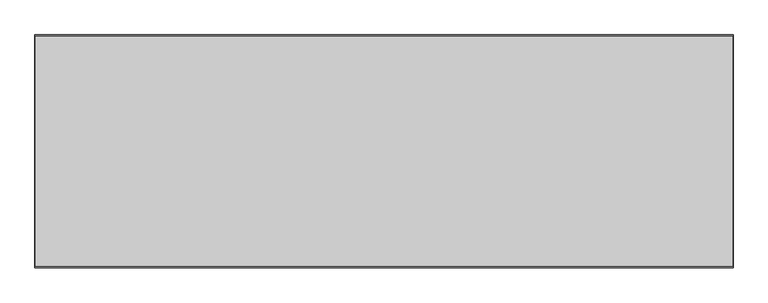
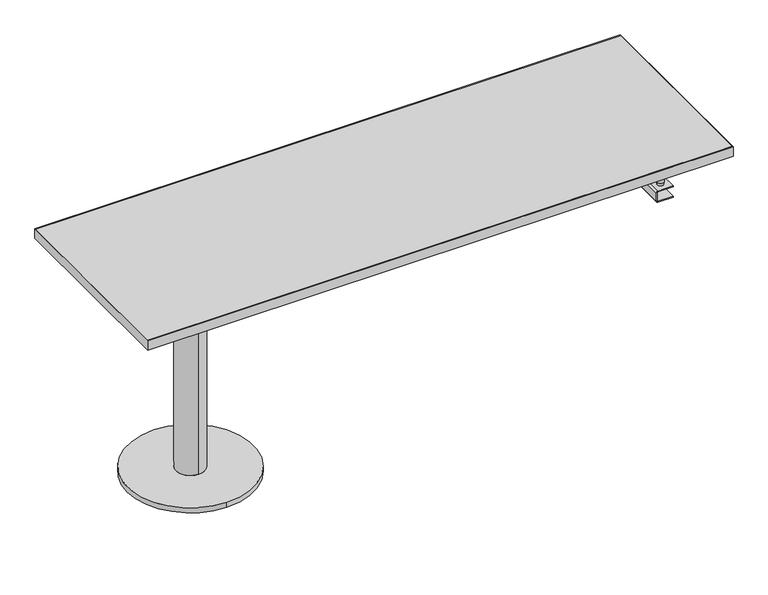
"""IFC4 building model written with IfcOpenShell, lengths in millimetres: furniture geometry, Steelcase Coalesse - Topo - Desktop - Freestanding Straight Ancillary : 72W x 24D - Left - Flat Edge."""

from ifc_helpers import new_model, si_unit, frame, origin, place, context, project, spatial, polyline, circle_curve, outline, extrude, source, transform, mapped, element, save
from ifc_brep_helpers import plane_surface, cylinder_surface, revolved_surface, advanced_brep


def furniture_5c7a1199(model_context):
    return source(origin(), model_context, "Body", "SolidModel", [
        advanced_brep(
        [(309.626, -501.6500363, 16.8148), (309.626, -107.9500363, 16.8148), (309.626, -260.3500363, 16.8148), (309.626, -349.2500363, 16.8148), (309.626, -501.6500363, 0.0), (309.626, -107.9500363, 0.0), (309.626, -349.2500363, 635.0), (309.626, -260.3500363, 635.0), (309.626, -269.8509568, 635.0), (309.626, -339.7491159, 635.0), (309.626, -339.7491159, 688.975), (309.626, -269.8509568, 688.975), (411.2261938, -203.2000242, 692.15), (208.0258062, -203.2000242, 692.15), (208.0258062, -406.4000484, 692.15), (411.2261938, -406.4000484, 692.15), (411.2261938, -203.2000242, 688.975), (411.2261938, -406.4000484, 688.975), (208.0258062, -406.4000484, 688.975), (208.0258062, -203.2000242, 688.975)],
        [
            (0, 1, circle_curve(frame((309.626, -304.8000363, 16.8148), z_axis=(0.0, 0.0, 1.0), x_axis=(0.0, 1.0, 0.0)), 196.85)),
            (1, 0, circle_curve(frame((309.626, -304.8000363, 16.8148), z_axis=(0.0, 0.0, 1.0), x_axis=(0.0, 1.0, 0.0)), 196.85)),
            (2, 3, circle_curve(frame((309.626, -304.8000363, 16.8148), z_axis=(0.0, 0.0, -1.0), x_axis=(0.0, 1.0, 0.0)), 44.45)),
            (3, 2, circle_curve(frame((309.626, -304.8000363, 16.8148), z_axis=(0.0, 0.0, -1.0), x_axis=(0.0, 1.0, 0.0)), 44.45)),
            (4, 5, circle_curve(frame((309.626, -304.8000363, 0.0), z_axis=(0.0, 0.0, -1.0), x_axis=(0.0, 1.0, 0.0)), 196.85)),
            (5, 4, circle_curve(frame((309.626, -304.8000363, 0.0), z_axis=(0.0, 0.0, -1.0), x_axis=(0.0, 1.0, 0.0)), 196.85)),
            (0, 4),
            (5, 1),
            (6, 7, circle_curve(frame((309.626, -304.8000363, 635.0), z_axis=(0.0, 0.0, 1.0), x_axis=(0.0, 1.0, 0.0)), 44.45)),
            (7, 6, circle_curve(frame((309.626, -304.8000363, 635.0), z_axis=(0.0, 0.0, 1.0), x_axis=(0.0, 1.0, 0.0)), 44.45)),
            (8, 9, circle_curve(frame((309.626, -304.8000363, 635.0), z_axis=(0.0, 0.0, -1.0), x_axis=(0.0, 1.0, 0.0)), 34.9490796)),
            (9, 8, circle_curve(frame((309.626, -304.8000363, 635.0), z_axis=(0.0, 0.0, -1.0), x_axis=(0.0, 1.0, 0.0)), 34.9490796)),
            (6, 3),
            (2, 7),
            (10, 9),
            (8, 11),
            (11, 10, circle_curve(frame((309.626, -304.8000363, 688.975), z_axis=(0.0, 0.0, -1.0), x_axis=(0.0, 1.0, 0.0)), 34.9490796)),
            (10, 11, circle_curve(frame((309.626, -304.8000363, 688.975), z_axis=(0.0, 0.0, -1.0), x_axis=(0.0, 1.0, 0.0)), 34.9490796)),
            (12, 13),
            (13, 14),
            (14, 15),
            (15, 12),
            (16, 17),
            (17, 18),
            (18, 19),
            (19, 16),
            (12, 16),
            (19, 13),
            (18, 14),
            (17, 15),
        ],
        [
            plane_surface(frame((309.626, -107.9500363, 16.8148), z_axis=(0.0, 0.0, 1.0), x_axis=(-1.0, 0.0, 0.0))),
            plane_surface(frame((309.626, -107.9500363, 0.0), z_axis=(0.0, 0.0, -1.0), x_axis=(1.0, 0.0, 0.0))),
            cylinder_surface(frame((309.626, -304.8000363, 0.0), z_axis=(0.0, 0.0, 1.0), x_axis=(0.0, 1.0, 0.0)), 196.85),
            plane_surface(frame((309.626, -260.3500363, 635.0), z_axis=(0.0, 0.0, 1.0), x_axis=(-1.0, 0.0, 0.0))),
            cylinder_surface(frame((309.626, -304.8000363, 0.0), z_axis=(0.0, 0.0, 1.0), x_axis=(0.0, 1.0, 0.0)), 44.45),
            cylinder_surface(frame((309.626, -304.8000363, 635.0), z_axis=(0.0, 0.0, 1.0), x_axis=(0.0, 1.0, 0.0)), 34.9490796),
            plane_surface(frame((208.0258062, -203.2000242, 692.15), z_axis=(0.0, 0.0, 1.0), x_axis=(-1.0, 0.0, 0.0))),
            plane_surface(frame((208.0258062, -203.2000242, 688.975), z_axis=(0.0, 0.0, -1.0), x_axis=(1.0, 0.0, 0.0))),
            plane_surface(frame((411.2261938, -203.2000242, 692.15), z_axis=(0.0, 1.0, 0.0), x_axis=(0.0, 0.0, -1.0))),
            plane_surface(frame((208.0258062, -203.2000242, 692.15), z_axis=(-1.0, 0.0, 0.0), x_axis=(0.0, 0.0, -1.0))),
            plane_surface(frame((208.0258062, -406.4000484, 692.15), z_axis=(0.0, -1.0, 0.0), x_axis=(0.0, 0.0, -1.0))),
            plane_surface(frame((411.2261938, -406.4000484, 692.15), z_axis=(1.0, 0.0, 0.0), x_axis=(0.0, 0.0, -1.0))),
        ],
        [
            (0, [[1, 2], [3, 4]]),
            (1, [[5, 6]]),
            (2, [[-1, 7, -6, 8]]),
            (2, [[-2, -8, -5, -7]]),
            (3, [[9, 10], [11, 12]]),
            (4, [[-9, 13, -3, 14]]),
            (4, [[-10, -14, -4, -13]]),
            (5, [[15, -11, 16, 17]]),
            (5, [[-15, 18, -16, -12]]),
            (6, [[19, 20, 21, 22]]),
            (7, [[23, 24, 25, 26], [-17, -18]]),
            (8, [[-19, 27, -26, 28]]),
            (9, [[-20, -28, -25, 29]]),
            (10, [[-21, -29, -24, 30]]),
            (11, [[-22, -30, -23, -27]]),
        ],
    ),
        extrude(outline(polyline([(1827.783783, -3.1750242), (1827.783783, -606.4250484), (1.016217, -606.4250484), (1.016217, -3.1750242), (1827.783783, -3.1750242)])), frame((0.0, 0.0, 692.15), z_axis=(0.0, 0.0, 1.0), x_axis=(1.0, 0.0, 0.0)), (0.0, 0.0, 1.0), 31.75),
        extrude(outline(polyline([(1828.8, 0.0), (1828.8, -609.6), (0.0, -609.6), (0.0, 0.0), (1828.8, 0.0)]), holes=[polyline([(1827.783783, -3.1750242), (1.016217, -3.1750242), (1.016217, -606.4250484), (1827.783783, -606.4250484), (1827.783783, -3.1750242)])]), frame((0.0, 0.0, 692.15), z_axis=(0.0, 0.0, 1.0), x_axis=(1.0, 0.0, 0.0)), (0.0, 0.0, 1.0), 31.75),
        extrude(outline(polyline([(-109.2200048, 691.1168589), (-127.2794, 691.1168589), (-127.2794, 682.2694), (-171.1706, 682.2694), (-171.1706, 691.1168589), (-189.2300194, 691.1168589), (-189.2300194, 692.15), (-170.18, 692.15), (-170.18, 683.304655), (-128.27, 683.304655), (-128.27, 692.15), (-109.2200048, 692.15), (-109.2200048, 691.1168589)])), frame((57.0738, 0.0, 0.0), z_axis=(1.0, 0.0, 0.0), x_axis=(0.0, 1.0, 0.0)), (0.0, 0.0, 1.0), 1714.6523581),
        extrude(outline(polyline([(-564.8960426, 691.1168589), (-564.8960426, 692.15), (-545.8460475, 692.15), (-545.8460475, 683.304655), (-503.9360475, 683.304655), (-503.9360475, 692.15), (-484.8860281, 692.15), (-484.8860281, 691.1168589), (-502.9454475, 691.1168589), (-502.9454475, 682.2694), (-546.8366475, 682.2694), (-546.8366475, 691.1168589), (-564.8960426, 691.1168589)])), frame((57.0738, 0.0, 0.0), z_axis=(1.0, 0.0, 0.0), x_axis=(0.0, 1.0, 0.0)), (0.0, 0.0, 1.0), 1714.6523581),
        advanced_brep(
        [(1720.8500969, -267.5128138, 692.15), (1657.3499031, -267.5128138, 692.15), (1657.3499031, -331.0127895, 692.15), (1720.8500969, -331.0127895, 692.15), (1720.8500969, -267.5128138, 688.975), (1720.8500969, -331.0127895, 688.975), (1657.3499031, -331.0127895, 688.975), (1657.3499031, -267.5128138, 688.975), (1689.1, -318.3128016, 688.975), (1689.1, -280.2128016, 688.975), (1689.1, -318.3128016, 655.6248), (1689.1, -280.2128016, 655.6248), (1689.1, -310.4626736, 655.6248), (1689.1, -288.0629297, 655.6248), (1689.1, -310.4626736, 621.2586), (1689.1, -288.0629297, 621.2586), (1689.1, -314.5105403, 621.2586), (1689.1, -284.015063, 621.2586), (1689.1, -314.5105403, 615.1626), (1689.1, -284.015063, 615.1626), (1689.1, -311.9628016, 615.1626), (1689.1, -286.5628016, 615.1626), (1689.1, -311.9628016, 609.4984), (1689.1, -286.5628016, 609.4984)],
        [
            (0, 1),
            (1, 2),
            (2, 3),
            (3, 0),
            (4, 5),
            (5, 6),
            (6, 7),
            (7, 4),
            (8, 9, circle_curve(frame((1689.1, -299.2628016, 688.975), z_axis=(0.0, 0.0, 1.0), x_axis=(0.0, 1.0, 0.0)), 19.05)),
            (9, 8, circle_curve(frame((1689.1, -299.2628016, 688.975), z_axis=(0.0, 0.0, 1.0), x_axis=(0.0, 1.0, 0.0)), 19.05)),
            (0, 4),
            (7, 1),
            (6, 2),
            (5, 3),
            (10, 11, circle_curve(frame((1689.1, -299.2628016, 655.6248), z_axis=(0.0, 0.0, -1.0), x_axis=(0.0, 1.0, 0.0)), 19.05)),
            (11, 10, circle_curve(frame((1689.1, -299.2628016, 655.6248), z_axis=(0.0, 0.0, -1.0), x_axis=(0.0, 1.0, 0.0)), 19.05)),
            (12, 13, circle_curve(frame((1689.1, -299.2628016, 655.6248), z_axis=(0.0, 0.0, 1.0), x_axis=(0.0, 1.0, 0.0)), 11.1998719)),
            (13, 12, circle_curve(frame((1689.1, -299.2628016, 655.6248), z_axis=(0.0, 0.0, 1.0), x_axis=(0.0, 1.0, 0.0)), 11.1998719)),
            (11, 9),
            (8, 10),
            (12, 14),
            (14, 15, circle_curve(frame((1689.1, -299.2628016, 621.2586), z_axis=(0.0, 0.0, 1.0), x_axis=(0.0, 1.0, 0.0)), 11.1998719)),
            (15, 13),
            (15, 14, circle_curve(frame((1689.1, -299.2628016, 621.2586), z_axis=(0.0, 0.0, 1.0), x_axis=(0.0, 1.0, 0.0)), 11.1998719)),
            (16, 17, circle_curve(frame((1689.1, -299.2628016, 621.2586), z_axis=(0.0, 0.0, 1.0), x_axis=(0.0, 1.0, 0.0)), 15.2477387)),
            (17, 16, circle_curve(frame((1689.1, -299.2628016, 621.2586), z_axis=(0.0, 0.0, 1.0), x_axis=(0.0, 1.0, 0.0)), 15.2477387)),
            (18, 19, circle_curve(frame((1689.1, -299.2628016, 615.1626), z_axis=(0.0, 0.0, -1.0), x_axis=(0.0, 1.0, 0.0)), 15.2477387)),
            (19, 18, circle_curve(frame((1689.1, -299.2628016, 615.1626), z_axis=(0.0, 0.0, -1.0), x_axis=(0.0, 1.0, 0.0)), 15.2477387)),
            (20, 21, circle_curve(frame((1689.1, -299.2628016, 615.1626), z_axis=(0.0, 0.0, 1.0), x_axis=(0.0, 1.0, 0.0)), 12.7)),
            (21, 20, circle_curve(frame((1689.1, -299.2628016, 615.1626), z_axis=(0.0, 0.0, 1.0), x_axis=(0.0, 1.0, 0.0)), 12.7)),
            (16, 18),
            (19, 17),
            (22, 23, circle_curve(frame((1689.1, -299.2628016, 609.4984), z_axis=(0.0, 0.0, -1.0), x_axis=(0.0, 1.0, 0.0)), 12.7)),
            (23, 22, circle_curve(frame((1689.1, -299.2628016, 609.4984), z_axis=(0.0, 0.0, -1.0), x_axis=(0.0, 1.0, 0.0)), 12.7)),
            (23, 21),
            (20, 22),
        ],
        [
            plane_surface(frame((1657.3499031, -267.5128138, 692.15), z_axis=(0.0, 0.0, 1.0), x_axis=(-1.0, 0.0, 0.0))),
            plane_surface(frame((1657.3499031, -267.5128138, 688.975), z_axis=(0.0, 0.0, -1.0), x_axis=(1.0, 0.0, 0.0))),
            plane_surface(frame((1720.8500969, -267.5128138, 692.15), z_axis=(0.0, 1.0, 0.0), x_axis=(0.0, 0.0, -1.0))),
            plane_surface(frame((1657.3499031, -267.5128138, 692.15), z_axis=(-1.0, 0.0, 0.0), x_axis=(0.0, 0.0, -1.0))),
            plane_surface(frame((1657.3499031, -331.0127895, 692.15), z_axis=(0.0, -1.0, 0.0), x_axis=(0.0, 0.0, -1.0))),
            plane_surface(frame((1720.8500969, -331.0127895, 692.15), z_axis=(1.0, 0.0, 0.0), x_axis=(0.0, 0.0, -1.0))),
            plane_surface(frame((1689.1, -280.2128016, 655.6248), z_axis=(0.0, 0.0, -1.0), x_axis=(1.0, 0.0, 0.0))),
            cylinder_surface(frame((1689.1, -299.2628016, 655.6248), z_axis=(0.0, 0.0, 1.0), x_axis=(0.0, 1.0, 0.0)), 19.05),
            cylinder_surface(frame((1689.1, -299.2628016, 621.2586), z_axis=(0.0, 0.0, 1.0), x_axis=(0.0, 1.0, 0.0)), 11.1998719),
            plane_surface(frame((1689.1, -284.015063, 621.2586), z_axis=(0.0, 0.0, 1.0), x_axis=(-1.0, 0.0, 0.0))),
            plane_surface(frame((1689.1, -284.015063, 615.1626), z_axis=(0.0, 0.0, -1.0), x_axis=(1.0, 0.0, 0.0))),
            cylinder_surface(frame((1689.1, -299.2628016, 615.1626), z_axis=(0.0, 0.0, 1.0), x_axis=(0.0, 1.0, 0.0)), 15.2477387),
            plane_surface(frame((1689.1, -286.5628016, 609.4984), z_axis=(0.0, 0.0, -1.0), x_axis=(1.0, 0.0, 0.0))),
            cylinder_surface(frame((1689.1, -299.2628016, 609.4984), z_axis=(0.0, 0.0, 1.0), x_axis=(0.0, 1.0, 0.0)), 12.7),
        ],
        [
            (0, [[1, 2, 3, 4]]),
            (1, [[5, 6, 7, 8], [9, 10]]),
            (2, [[-1, 11, -8, 12]]),
            (3, [[-2, -12, -7, 13]]),
            (4, [[-3, -13, -6, 14]]),
            (5, [[-4, -14, -5, -11]]),
            (6, [[15, 16], [17, 18]]),
            (7, [[-16, 19, -9, 20]]),
            (7, [[-15, -20, -10, -19]]),
            (8, [[21, 22, 23, -17]]),
            (8, [[-21, -18, -23, 24]]),
            (9, [[25, 26], [-22, -24]]),
            (10, [[27, 28], [29, 30]]),
            (11, [[-25, 31, -28, 32]]),
            (11, [[-26, -32, -27, -31]]),
            (12, [[33, 34]]),
            (13, [[-34, 35, -29, 36]]),
            (13, [[-33, -36, -30, -35]]),
        ],
    ),
        advanced_brep(
        [(1628.2422055, -550.2910475, 612.0384), (1623.1622153, -550.2910475, 606.9584098), (1623.1622153, -550.2910475, 580.2884171), (1628.2422323, -550.2910475, 575.2084), (1676.5019827, -550.2910475, 575.2084), (1676.5019827, -550.2910475, 577.7484), (1628.2419827, -550.2910475, 577.7484), (1625.7021765, -550.2910475, 580.2882062), (1625.7021765, -550.2910475, 606.9584098), (1628.2421667, -550.2910475, 609.4984), (1676.5019827, -550.2910475, 609.4984), (1676.5019827, -550.2910475, 612.0384), (1628.2422055, -124.840999, 612.0384), (1676.5019827, -124.840999, 612.0384), (1676.5019827, -124.840999, 609.4984), (1628.2421667, -124.840999, 609.4984), (1625.7021765, -124.840999, 606.9584098), (1625.7021765, -124.840999, 580.2882062), (1628.2419827, -124.840999, 577.7484), (1676.5019827, -124.840999, 577.7484), (1676.5019827, -124.840999, 575.2084), (1628.2422323, -124.840999, 575.2084), (1623.1622153, -124.840999, 580.2884171), (1623.1622153, -124.840999, 606.9584098), (1676.5019827, -180.7210184, 575.2084), (1632.051789, -180.7210184, 575.2084), (1632.051789, -493.3950291, 575.2084), (1676.5019827, -493.3950291, 575.2084), (1676.5019827, -493.3950291, 577.7484), (1676.5019827, -180.7210184, 577.7484), (1632.051789, -493.3950291, 577.7484), (1632.051789, -180.7210184, 577.7484), (1676.5019827, -180.7210184, 609.4984), (1632.051789, -180.7210184, 609.4984), (1632.051789, -493.3950291, 609.4984), (1676.5019827, -493.3950291, 609.4984), (1676.5019827, -493.3950291, 612.0384), (1676.5019827, -180.7210184, 612.0384), (1632.051789, -493.3950291, 612.0384), (1632.051789, -180.7210184, 612.0384), (1660.753789, -523.9179378, 612.0384), (1641.449789, -523.9179378, 612.0384), (1660.753789, -150.1981097, 612.0384), (1641.449789, -150.1981097, 612.0384), (1682.8523703, -498.4749516, 682.2694), (1619.351789, -498.4749516, 682.2694), (1613.001789, -504.8249516, 682.2694), (1613.001789, -543.010924, 682.2694), (1620.3925794, -549.2750484, 682.2694), (1681.8115798, -549.2750484, 682.2694), (1689.201789, -542.925, 682.2694), (1689.201789, -504.9108755, 682.2694), (1682.8523703, -175.6410959, 682.2694), (1689.201789, -169.2051719, 682.2694), (1689.201789, -131.1910475, 682.2694), (1681.8115798, -124.840999, 682.2694), (1620.3925794, -124.840999, 682.2694), (1613.001789, -131.1051235, 682.2694), (1613.001789, -169.2910959, 682.2694), (1619.351789, -175.6410959, 682.2694), (1682.8523703, -498.4749516, 679.0944), (1689.201789, -504.9108755, 679.0944), (1689.201789, -542.925, 679.0944), (1681.8115798, -549.2750484, 679.0944), (1620.3925794, -549.2750484, 679.0944), (1613.001789, -543.010924, 679.0944), (1613.001789, -504.8249516, 679.0944), (1619.351789, -498.4749516, 679.0944), (1662.277789, -523.9179378, 679.0944), (1639.925789, -523.9179378, 679.0944), (1682.8523703, -175.6410959, 679.0944), (1619.351789, -175.6410959, 679.0944), (1613.001789, -169.2910959, 679.0944), (1613.001789, -131.1051235, 679.0944), (1620.3925794, -124.840999, 679.0944), (1681.8115798, -124.840999, 679.0944), (1689.201789, -131.1910475, 679.0944), (1689.201789, -169.2051719, 679.0944), (1662.277789, -150.1981097, 679.0944), (1639.925789, -150.1981097, 679.0944), (1641.449789, -523.9179378, 621.2586), (1660.753789, -523.9179378, 621.2586), (1641.449789, -150.1981097, 621.2586), (1660.753789, -150.1981097, 621.2586), (1662.277789, -523.9179378, 621.2586), (1639.925789, -523.9179378, 621.2586), (1662.277789, -150.1981097, 621.2586), (1639.925789, -150.1981097, 621.2586)],
        [
            (0, 1, circle_curve(frame((1628.2422055, -550.2910475, 606.9584098), z_axis=(0.0, -1.0, 0.0), x_axis=(1.0, 0.0, 0.0)), 5.0799902)),
            (1, 2),
            (2, 3, circle_curve(frame((1628.2422323, -550.2910475, 580.2884171), z_axis=(0.0, -1.0, 0.0), x_axis=(1.0, 0.0, 0.0)), 5.0800171)),
            (3, 4),
            (4, 5),
            (5, 6),
            (6, 7, circle_curve(frame((1628.2419827, -550.2910475, 580.2882062), z_axis=(0.0, 1.0, 0.0), x_axis=(1.0, 0.0, 0.0)), 2.5398062)),
            (7, 8),
            (8, 9, circle_curve(frame((1628.2421667, -550.2910475, 606.9584098), z_axis=(0.0, 1.0, 0.0), x_axis=(1.0, 0.0, 0.0)), 2.5399902)),
            (9, 10),
            (10, 11),
            (11, 0),
            (12, 13),
            (13, 14),
            (14, 15),
            (15, 16, circle_curve(frame((1628.2421667, -124.840999, 606.9584098), z_axis=(0.0, -1.0, 0.0), x_axis=(1.0, 0.0, 0.0)), 2.5399902)),
            (16, 17),
            (17, 18, circle_curve(frame((1628.2419827, -124.840999, 580.2882062), z_axis=(0.0, -1.0, 0.0), x_axis=(1.0, 0.0, 0.0)), 2.5398062)),
            (18, 19),
            (19, 20),
            (20, 21),
            (21, 22, circle_curve(frame((1628.2422323, -124.840999, 580.2884171), z_axis=(0.0, 1.0, 0.0), x_axis=(1.0, 0.0, 0.0)), 5.0800171)),
            (22, 23),
            (23, 12, circle_curve(frame((1628.2422055, -124.840999, 606.9584098), z_axis=(0.0, 1.0, 0.0), x_axis=(1.0, 0.0, 0.0)), 5.0799902)),
            (0, 12),
            (23, 1),
            (22, 2),
            (21, 3),
            (20, 24),
            (24, 25),
            (25, 26),
            (26, 27),
            (27, 4),
            (27, 28),
            (28, 5),
            (19, 29),
            (29, 24),
            (28, 30),
            (30, 31),
            (31, 29),
            (18, 6),
            (17, 7),
            (16, 8),
            (15, 9),
            (14, 32),
            (32, 33),
            (33, 34),
            (34, 35),
            (35, 10),
            (35, 36),
            (36, 11),
            (13, 37),
            (37, 32),
            (36, 38),
            (38, 39),
            (39, 37),
            (40, 41, circle_curve(frame((1651.101789, -523.9179378, 612.0384), z_axis=(0.0, 0.0, -1.0), x_axis=(1.0, 0.0, 0.0)), 9.652)),
            (41, 40, circle_curve(frame((1651.101789, -523.9179378, 612.0384), z_axis=(0.0, 0.0, -1.0), x_axis=(1.0, 0.0, 0.0)), 9.652)),
            (42, 43, circle_curve(frame((1651.101789, -150.1981097, 612.0384), z_axis=(0.0, 0.0, -1.0), x_axis=(1.0, 0.0, 0.0)), 9.652)),
            (43, 42, circle_curve(frame((1651.101789, -150.1981097, 612.0384), z_axis=(0.0, 0.0, -1.0), x_axis=(1.0, 0.0, 0.0)), 9.652)),
            (31, 25),
            (39, 33),
            (26, 30),
            (34, 38),
            (44, 45),
            (45, 46, circle_curve(frame((1619.351789, -504.8249516, 682.2694), z_axis=(0.0, 0.0, 1.0), x_axis=(1.0, 0.0, 0.0)), 6.35)),
            (46, 47),
            (47, 48, circle_curve(frame((1619.351789, -543.010924, 682.2694), z_axis=(0.0, 0.0, 1.0), x_axis=(1.0, 0.0, 0.0)), 6.35)),
            (48, 49),
            (49, 50, circle_curve(frame((1682.8523703, -543.010924, 682.2694), z_axis=(0.0, 0.0, 1.0), x_axis=(1.0, 0.0, 0.0)), 6.35)),
            (50, 51),
            (51, 44, circle_curve(frame((1682.8523703, -504.8249516, 682.2694), z_axis=(0.0, 0.0, 1.0), x_axis=(1.0, 0.0, 0.0)), 6.35)),
            (52, 53, circle_curve(frame((1682.8523703, -169.2910959, 682.2694), z_axis=(0.0, 0.0, 1.0), x_axis=(1.0, 0.0, 0.0)), 6.35)),
            (53, 54),
            (54, 55, circle_curve(frame((1682.8523703, -131.1051235, 682.2694), z_axis=(0.0, 0.0, 1.0), x_axis=(1.0, 0.0, 0.0)), 6.35)),
            (55, 56),
            (56, 57, circle_curve(frame((1619.351789, -131.1051235, 682.2694), z_axis=(0.0, 0.0, 1.0), x_axis=(1.0, 0.0, 0.0)), 6.35)),
            (57, 58),
            (58, 59, circle_curve(frame((1619.351789, -169.2910959, 682.2694), z_axis=(0.0, 0.0, 1.0), x_axis=(1.0, 0.0, 0.0)), 6.35)),
            (59, 52),
            (60, 61, circle_curve(frame((1682.8523703, -504.8249516, 679.0944), z_axis=(0.0, 0.0, -1.0), x_axis=(1.0, 0.0, 0.0)), 6.35)),
            (61, 62),
            (62, 63, circle_curve(frame((1682.8523703, -543.010924, 679.0944), z_axis=(0.0, 0.0, -1.0), x_axis=(1.0, 0.0, 0.0)), 6.35)),
            (63, 64),
            (64, 65, circle_curve(frame((1619.351789, -543.010924, 679.0944), z_axis=(0.0, 0.0, -1.0), x_axis=(1.0, 0.0, 0.0)), 6.35)),
            (65, 66),
            (66, 67, circle_curve(frame((1619.351789, -504.8249516, 679.0944), z_axis=(0.0, 0.0, -1.0), x_axis=(1.0, 0.0, 0.0)), 6.35)),
            (67, 60),
            (68, 69, circle_curve(frame((1651.101789, -523.9179378, 679.0944), z_axis=(0.0, 0.0, 1.0), x_axis=(1.0, 0.0, 0.0)), 11.176)),
            (69, 68, circle_curve(frame((1651.101789, -523.9179378, 679.0944), z_axis=(0.0, 0.0, 1.0), x_axis=(1.0, 0.0, 0.0)), 11.176)),
            (70, 71),
            (71, 72, circle_curve(frame((1619.351789, -169.2910959, 679.0944), z_axis=(0.0, 0.0, -1.0), x_axis=(1.0, 0.0, 0.0)), 6.35)),
            (72, 73),
            (73, 74, circle_curve(frame((1619.351789, -131.1051235, 679.0944), z_axis=(0.0, 0.0, -1.0), x_axis=(1.0, 0.0, 0.0)), 6.35)),
            (74, 75),
            (75, 76, circle_curve(frame((1682.8523703, -131.1051235, 679.0944), z_axis=(0.0, 0.0, -1.0), x_axis=(1.0, 0.0, 0.0)), 6.35)),
            (76, 77),
            (77, 70, circle_curve(frame((1682.8523703, -169.2910959, 679.0944), z_axis=(0.0, 0.0, -1.0), x_axis=(1.0, 0.0, 0.0)), 6.35)),
            (78, 79, circle_curve(frame((1651.101789, -150.1981097, 679.0944), z_axis=(0.0, 0.0, 1.0), x_axis=(1.0, 0.0, 0.0)), 11.176)),
            (79, 78, circle_curve(frame((1651.101789, -150.1981097, 679.0944), z_axis=(0.0, 0.0, 1.0), x_axis=(1.0, 0.0, 0.0)), 11.176)),
            (44, 60),
            (67, 45),
            (66, 46),
            (65, 47),
            (64, 48),
            (63, 49),
            (62, 50),
            (61, 51),
            (52, 70),
            (77, 53),
            (76, 54),
            (75, 55),
            (74, 56),
            (73, 57),
            (72, 58),
            (71, 59),
            (80, 41),
            (40, 81),
            (81, 80, circle_curve(frame((1651.101789, -523.9179378, 621.2586), z_axis=(0.0, 0.0, -1.0), x_axis=(1.0, 0.0, 0.0)), 9.652)),
            (80, 81, circle_curve(frame((1651.101789, -523.9179378, 621.2586), z_axis=(0.0, 0.0, -1.0), x_axis=(1.0, 0.0, 0.0)), 9.652)),
            (82, 43),
            (42, 83),
            (83, 82, circle_curve(frame((1651.101789, -150.1981097, 621.2586), z_axis=(0.0, 0.0, -1.0), x_axis=(1.0, 0.0, 0.0)), 9.652)),
            (82, 83, circle_curve(frame((1651.101789, -150.1981097, 621.2586), z_axis=(0.0, 0.0, -1.0), x_axis=(1.0, 0.0, 0.0)), 9.652)),
            (84, 85, circle_curve(frame((1651.101789, -523.9179378, 621.2586), z_axis=(0.0, 0.0, -1.0), x_axis=(1.0, 0.0, 0.0)), 11.176)),
            (85, 84, circle_curve(frame((1651.101789, -523.9179378, 621.2586), z_axis=(0.0, 0.0, -1.0), x_axis=(1.0, 0.0, 0.0)), 11.176)),
            (86, 87, circle_curve(frame((1651.101789, -150.1981097, 621.2586), z_axis=(0.0, 0.0, -1.0), x_axis=(1.0, 0.0, 0.0)), 11.176)),
            (87, 86, circle_curve(frame((1651.101789, -150.1981097, 621.2586), z_axis=(0.0, 0.0, -1.0), x_axis=(1.0, 0.0, 0.0)), 11.176)),
            (85, 69),
            (68, 84),
            (87, 79),
            (78, 86),
        ],
        [
            plane_surface(frame((1633.3221957, -550.2910475, 606.9584098), z_axis=(0.0, -1.0, 0.0), x_axis=(0.0, 0.0, 1.0))),
            plane_surface(frame((1633.3221957, -124.840999, 606.9584098), z_axis=(0.0, 1.0, 0.0), x_axis=(0.0, 0.0, -1.0))),
            cylinder_surface(frame((1628.2422055, -124.840999, 606.9584098), z_axis=(0.0, -1.0, 0.0), x_axis=(1.0, 0.0, 0.0)), 5.0799902),
            plane_surface(frame((1623.1622153, -550.2910475, 606.9584098), z_axis=(-1.0, 0.0, 0.0), x_axis=(0.0, 1.0, 0.0))),
            cylinder_surface(frame((1628.2422323, -124.840999, 580.2884171), z_axis=(0.0, -1.0, 0.0), x_axis=(1.0, 0.0, 0.0)), 5.0800171),
            plane_surface(frame((1628.2422323, -550.2910475, 575.2084), z_axis=(0.0, 0.0, -1.0), x_axis=(0.0, 1.0, 0.0))),
            plane_surface(frame((1676.5019827, -550.2910475, 575.2084), z_axis=(1.0, 0.0, 0.0), x_axis=(0.0, 1.0, 0.0))),
            plane_surface(frame((1676.5019827, -550.2910475, 577.7484), z_axis=(0.0, 0.0, 1.0), x_axis=(0.0, 1.0, 0.0))),
            revolved_surface(polyline([(1630.7817889, -124.840999, 580.2882062), (1630.7817889, -550.2910475, 580.2882062)]), (1628.2419827, -124.840999, 580.2882062), (0.0, 1.0, 0.0)),
            plane_surface(frame((1625.7021765, -550.2910475, 580.2882062), z_axis=(1.0, 0.0, 0.0), x_axis=(0.0, 1.0, 0.0))),
            revolved_surface(polyline([(1630.7821569, -124.840999, 606.9584098), (1630.7821569, -550.2910475, 606.9584098)]), (1628.2421667, -124.840999, 606.9584098), (0.0, 1.0, 0.0)),
            plane_surface(frame((1628.2421667, -550.2910475, 609.4984), z_axis=(0.0, 0.0, -1.0), x_axis=(0.0, 1.0, 0.0))),
            plane_surface(frame((1676.5019827, -550.2910475, 609.4984), z_axis=(1.0, 0.0, 0.0), x_axis=(0.0, 1.0, 0.0))),
            plane_surface(frame((1676.5019827, -550.2910475, 612.0384), z_axis=(0.0, 0.0, 1.0), x_axis=(0.0, 1.0, 0.0))),
            plane_surface(frame((1632.051789, -180.7210184, 575.2084), z_axis=(0.0, -1.0, 0.0), x_axis=(0.0, 0.0, 1.0))),
            plane_surface(frame((1676.5019827, -493.3950291, 575.2084), z_axis=(0.0, 1.0, 0.0), x_axis=(0.0, 0.0, 1.0))),
            plane_surface(frame((1632.051789, -493.3950291, 575.2084), z_axis=(1.0, 0.0, 0.0), x_axis=(0.0, 0.0, 1.0))),
            plane_surface(frame((1619.351789, -498.4749516, 682.2694), z_axis=(0.0, 0.0, 1.0), x_axis=(-1.0, 0.0, 0.0))),
            plane_surface(frame((1619.351789, -498.4749516, 679.0944), z_axis=(0.0, 0.0, -1.0), x_axis=(1.0, 0.0, 0.0))),
            plane_surface(frame((1682.8523703, -498.4749516, 682.2694), z_axis=(0.0, 1.0, 0.0), x_axis=(0.0, 0.0, -1.0))),
            cylinder_surface(frame((1619.351789, -504.8249516, 679.0944), z_axis=(0.0, 0.0, 1.0), x_axis=(1.0, 0.0, 0.0)), 6.35),
            plane_surface(frame((1613.001789, -504.8249516, 682.2694), z_axis=(-1.0, 0.0, 0.0), x_axis=(0.0, 0.0, -1.0))),
            cylinder_surface(frame((1619.351789, -543.010924, 679.0944), z_axis=(0.0, 0.0, 1.0), x_axis=(1.0, 0.0, 0.0)), 6.35),
            plane_surface(frame((1620.3925794, -549.2750484, 682.2694), z_axis=(0.0, -1.0, 0.0), x_axis=(0.0, 0.0, -1.0))),
            cylinder_surface(frame((1682.8523703, -543.010924, 679.0944), z_axis=(0.0, 0.0, 1.0), x_axis=(1.0, 0.0, 0.0)), 6.35),
            plane_surface(frame((1689.201789, -542.925, 682.2694), z_axis=(1.0, 0.0, 0.0), x_axis=(0.0, 0.0, -1.0))),
            cylinder_surface(frame((1682.8523703, -504.8249516, 679.0944), z_axis=(0.0, 0.0, 1.0), x_axis=(1.0, 0.0, 0.0)), 6.35),
            cylinder_surface(frame((1682.8523703, -169.2910959, 0.0), z_axis=(0.0, 0.0, 1.0), x_axis=(1.0, 0.0, 0.0)), 6.35),
            plane_surface(frame((1689.201789, -169.2051719, 682.2694), z_axis=(1.0, 0.0, 0.0), x_axis=(0.0, 0.0, -1.0))),
            cylinder_surface(frame((1682.8523703, -131.1051235, 0.0), z_axis=(0.0, 0.0, 1.0), x_axis=(1.0, 0.0, 0.0)), 6.35),
            plane_surface(frame((1681.8115798, -124.840999, 682.2694), z_axis=(0.0, 1.0, 0.0), x_axis=(0.0, 0.0, -1.0))),
            cylinder_surface(frame((1619.351789, -131.1051235, 0.0), z_axis=(0.0, 0.0, 1.0), x_axis=(1.0, 0.0, 0.0)), 6.35),
            plane_surface(frame((1613.001789, -131.1051235, 682.2694), z_axis=(-1.0, 0.0, 0.0), x_axis=(0.0, 0.0, -1.0))),
            cylinder_surface(frame((1619.351789, -169.2910959, 0.0), z_axis=(0.0, 0.0, 1.0), x_axis=(1.0, 0.0, 0.0)), 6.35),
            plane_surface(frame((1619.351789, -175.6410959, 682.2694), z_axis=(0.0, -1.0, 0.0), x_axis=(0.0, 0.0, -1.0))),
            cylinder_surface(frame((1651.101789, -523.9179378, 612.0384), z_axis=(0.0, 0.0, 1.0), x_axis=(1.0, 0.0, 0.0)), 9.652),
            cylinder_surface(frame((1651.101789, -150.1981097, 0.0), z_axis=(0.0, 0.0, 1.0), x_axis=(1.0, 0.0, 0.0)), 9.652),
            plane_surface(frame((1662.277789, -523.9179378, 621.2586), z_axis=(0.0, 0.0, -1.0), x_axis=(0.0, -1.0, 0.0))),
            cylinder_surface(frame((1651.101789, -523.9179378, 621.2586), z_axis=(0.0, 0.0, 1.0), x_axis=(1.0, 0.0, 0.0)), 11.176),
            cylinder_surface(frame((1651.101789, -150.1981097, 0.0), z_axis=(0.0, 0.0, 1.0), x_axis=(1.0, 0.0, 0.0)), 11.176),
        ],
        [
            (0, [[1, 2, 3, 4, 5, 6, 7, 8, 9, 10, 11, 12]]),
            (1, [[13, 14, 15, 16, 17, 18, 19, 20, 21, 22, 23, 24]]),
            (2, [[-1, 25, -24, 26]]),
            (3, [[-2, -26, -23, 27]]),
            (4, [[-3, -27, -22, 28]]),
            (5, [[-4, -28, -21, 29, 30, 31, 32, 33]]),
            (6, [[-5, -33, 34, 35]]),
            (6, [[-20, 36, 37, -29]]),
            (7, [[-6, -35, 38, 39, 40, -36, -19, 41]]),
            (8, [[-7, -41, -18, 42]]),
            (9, [[-8, -42, -17, 43]]),
            (10, [[-9, -43, -16, 44]]),
            (11, [[-10, -44, -15, 45, 46, 47, 48, 49]]),
            (12, [[-11, -49, 50, 51]]),
            (12, [[-14, 52, 53, -45]]),
            (13, [[-12, -51, 54, 55, 56, -52, -13, -25], [57, 58], [59, 60]]),
            (14, [[61, -30, -37, -40]]),
            (14, [[62, -46, -53, -56]]),
            (15, [[63, -38, -34, -32]]),
            (15, [[64, -54, -50, -48]]),
            (16, [[-61, -39, -63, -31]]),
            (16, [[-62, -55, -64, -47]]),
            (17, [[65, 66, 67, 68, 69, 70, 71, 72]]),
            (17, [[73, 74, 75, 76, 77, 78, 79, 80]]),
            (18, [[81, 82, 83, 84, 85, 86, 87, 88], [89, 90]]),
            (18, [[91, 92, 93, 94, 95, 96, 97, 98], [99, 100]]),
            (19, [[-65, 101, -88, 102]]),
            (20, [[-66, -102, -87, 103]]),
            (21, [[-67, -103, -86, 104]]),
            (22, [[-68, -104, -85, 105]]),
            (23, [[-69, -105, -84, 106]]),
            (24, [[-70, -106, -83, 107]]),
            (25, [[-71, -107, -82, 108]]),
            (26, [[-72, -108, -81, -101]]),
            (27, [[-73, 109, -98, 110]]),
            (28, [[-74, -110, -97, 111]]),
            (29, [[-75, -111, -96, 112]]),
            (30, [[-76, -112, -95, 113]]),
            (31, [[-77, -113, -94, 114]]),
            (32, [[-78, -114, -93, 115]]),
            (33, [[-79, -115, -92, 116]]),
            (34, [[-80, -116, -91, -109]]),
            (35, [[117, -57, 118, 119]]),
            (35, [[-117, 120, -118, -58]]),
            (36, [[121, -59, 122, 123]]),
            (36, [[-121, 124, -122, -60]]),
            (37, [[125, 126], [-119, -120]]),
            (37, [[127, 128], [-123, -124]]),
            (38, [[-126, 129, -89, 130]]),
            (38, [[-125, -130, -90, -129]]),
            (39, [[-128, 131, -99, 132]]),
            (39, [[-127, -132, -100, -131]]),
        ],
    ),
    ])


if __name__ == "__main__":
    model = new_model("IFC4")
    model_context = context("Model", 3, world=origin())
    ifc_project = project(units=[si_unit("LENGTHUNIT", "METRE", prefix="MILLI")], contexts=[model_context])
    site = spatial("IfcSite", under=ifc_project)
    building = spatial("IfcBuilding", under=site)
    placement = place(None, origin())
    furniture_shape = furniture_5c7a1199(model_context)
    element("IfcFurniture", 1, ObjectType="Steelcase Coalesse - Topo - Desktop - Freestanding Straight Ancillary : 72W x 24D - Left - Flat Edge", at=placement, inside=building, context=model_context, shape_type="MappedRepresentation", body=[
        mapped(furniture_shape, transform((0.0, 0.0, 0.0), x_axis=(1.0, 0.0, 0.0), y_axis=(0.0, 1.0, 0.0), z_axis=(0.0, 0.0, 1.0))),
    ])
    save(model, "model.ifc")
